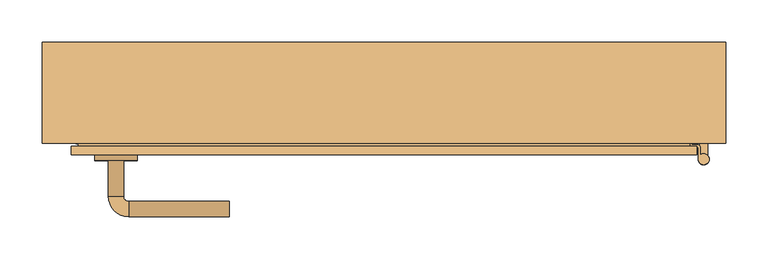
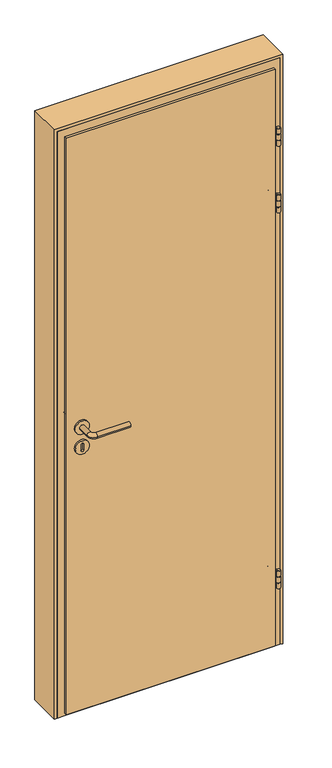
"""IFC4 building model written with IfcOpenShell, lengths in millimetres: door geometry, JW_Interior_Door_Steady_411_Single_1.0 : 790 x 1890 mm - M8 x M19 2 gray 2."""

from ifc_helpers import new_model, si_unit, point, frame, frame_2d, origin, place, context, project, spatial, polyline, circle_curve, ellipse_curve, trimmed, segment, composite_curve, outline, extrude, faceted_brep, source, transform, mapped, element, save
from ifc_brep_helpers import plane_surface, cylinder_surface, revolved_surface, advanced_brep


def door_630a3fa6(model_context):
    return source(origin(), model_context, "Body", "SolidModel", [
        advanced_brep(
        [(374.9018538, -73.3783893, 1955.5), (374.9018538, -64.9005704, 1955.5), (371.7009982, -61.6997148, 1955.5), (365.6997148, -61.6997148, 1955.5), (364.9, -60.9, 1955.5), (364.408042, -51.5128824, 1955.5), (364.1463622, -46.5197347, 1955.5), (361.6497884, -46.6505746, 1955.5), (361.9114682, -51.6437223, 1955.5), (362.4001557, -60.9684354, 1955.5), (365.6129452, -64.1812249, 1955.5), (371.5949734, -64.1812249, 1955.5), (372.404139, -64.9903905, 1955.5), (372.404139, -78.4990677, 1955.5), (374.9018538, -73.3783893, 1890.5), (372.404139, -78.4990677, 1890.5), (372.404139, -64.9903905, 1890.5), (371.5949734, -64.1812249, 1890.5), (365.6129452, -64.1812249, 1890.5), (362.4001557, -60.9684354, 1890.5), (361.9114682, -51.6437223, 1890.5), (361.6497884, -46.6505746, 1890.5), (364.1463622, -46.5197347, 1890.5), (364.408042, -51.5128824, 1890.5), (364.9, -60.9, 1890.5), (365.6997148, -61.6997148, 1890.5), (371.7009982, -61.6997148, 1890.5), (374.9018538, -64.9005704, 1890.5), (372.404139, -78.4990677, 1936.0), (374.9018538, -73.3783893, 1936.0), (374.9018538, -73.3783893, 1910.0), (372.404139, -78.4990677, 1910.0), (374.9018538, -64.9005704, 1936.0), (374.9018538, -64.9005704, 1910.0), (371.7009982, -61.6997148, 1936.0), (371.7009982, -61.6997148, 1910.0), (368.9, -61.6997148, 1936.0), (368.9, -61.6997148, 1910.0), (363.6230027, -36.5334394, 1900.5), (363.6230027, -36.5334394, 1945.5), (361.1264288, -36.6642792, 1900.5), (361.1264288, -36.6642792, 1945.5), (371.5949734, -64.1812249, 1910.0), (368.9, -64.1812249, 1910.0), (368.9, -64.1812249, 1936.0), (371.5949734, -64.1812249, 1936.0), (372.404139, -64.9903905, 1936.0), (372.404139, -64.9903905, 1910.0)],
        [
            (0, 1),
            (1, 2, circle_curve(frame((371.7009982, -64.9005704, 1955.5), z_axis=(0.0, 0.0, 1.0), x_axis=(0.0, 1.0, 0.0)), 3.2008556)),
            (2, 3),
            (3, 4, circle_curve(frame((365.6997148, -60.9, 1955.5), z_axis=(0.0, 0.0, -1.0), x_axis=(0.0, 1.0, 0.0)), 0.7997148)),
            (4, 5),
            (5, 6),
            (6, 7),
            (7, 8),
            (8, 9),
            (9, 10, circle_curve(frame((365.6129452, -60.9684354, 1955.5), z_axis=(0.0, 0.0, 1.0), x_axis=(0.0, 1.0, 0.0)), 3.2127895)),
            (10, 11),
            (11, 12, circle_curve(frame((371.5949734, -64.9903905, 1955.5), z_axis=(0.0, 0.0, -1.0), x_axis=(0.0, 1.0, 0.0)), 0.8091657)),
            (12, 13),
            (13, 0, circle_curve(frame((378.902064, -78.4990677, 1955.5), z_axis=(0.0, 0.0, 1.0), x_axis=(0.0, 1.0, 0.0)), 6.4979249)),
            (14, 15, circle_curve(frame((378.902064, -78.4990677, 1890.5), z_axis=(0.0, 0.0, -1.0), x_axis=(0.0, 1.0, 0.0)), 6.4979249)),
            (15, 16),
            (16, 17, circle_curve(frame((371.5949734, -64.9903905, 1890.5), z_axis=(0.0, 0.0, 1.0), x_axis=(0.0, 1.0, 0.0)), 0.8091657)),
            (17, 18),
            (18, 19, circle_curve(frame((365.6129452, -60.9684354, 1890.5), z_axis=(0.0, 0.0, -1.0), x_axis=(0.0, 1.0, 0.0)), 3.2127895)),
            (19, 20),
            (20, 21),
            (21, 22),
            (22, 23),
            (23, 24),
            (24, 25, circle_curve(frame((365.6997148, -60.9, 1890.5), z_axis=(0.0, 0.0, 1.0), x_axis=(0.0, 1.0, 0.0)), 0.7997148)),
            (25, 26),
            (26, 27, circle_curve(frame((371.7009982, -64.9005704, 1890.5), z_axis=(0.0, 0.0, -1.0), x_axis=(0.0, 1.0, 0.0)), 3.2008556)),
            (27, 14),
            (13, 28),
            (28, 29, circle_curve(frame((378.902064, -78.4990677, 1936.0), z_axis=(0.0, 0.0, 1.0), x_axis=(0.0, 1.0, 0.0)), 6.4979249)),
            (29, 0),
            (14, 30),
            (30, 31, circle_curve(frame((378.902064, -78.4990677, 1910.0), z_axis=(0.0, 0.0, -1.0), x_axis=(0.0, 1.0, 0.0)), 6.4979249)),
            (31, 15),
            (29, 32),
            (32, 1),
            (27, 33),
            (33, 30),
            (32, 34, circle_curve(frame((371.7009982, -64.9005704, 1936.0), z_axis=(0.0, 0.0, 1.0), x_axis=(0.0, 1.0, 0.0)), 3.2008556)),
            (34, 2),
            (26, 35),
            (35, 33, circle_curve(frame((371.7009982, -64.9005704, 1910.0), z_axis=(0.0, 0.0, -1.0), x_axis=(0.0, 1.0, 0.0)), 3.2008556)),
            (34, 36),
            (36, 37),
            (37, 35),
            (25, 3),
            (24, 4),
            (22, 38, circle_curve(frame((364.1463622, -46.5197347, 1900.5), z_axis=(0.9986295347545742, 0.05233595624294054, 0.0), x_axis=(0.05233595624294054, -0.9986295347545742, 0.0)), 10.0)),
            (38, 39),
            (39, 6, circle_curve(frame((364.1463622, -46.5197347, 1945.5), z_axis=(0.9986295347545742, 0.05233595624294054, 0.0), x_axis=(0.05233595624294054, -0.9986295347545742, 0.0)), 10.0)),
            (38, 40),
            (40, 41),
            (41, 39),
            (19, 9),
            (7, 41, circle_curve(frame((361.6497884, -46.6505746, 1945.5), z_axis=(-0.9986295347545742, -0.05233595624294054, 0.0), x_axis=(0.05233595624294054, -0.9986295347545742, 0.0)), 10.0)),
            (40, 21, circle_curve(frame((361.6497884, -46.6505746, 1900.5), z_axis=(-0.9986295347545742, -0.05233595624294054, 0.0), x_axis=(0.05233595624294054, -0.9986295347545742, 0.0)), 10.0)),
            (18, 10),
            (17, 42),
            (42, 43),
            (43, 44),
            (44, 45),
            (45, 11),
            (45, 46, circle_curve(frame((371.5949734, -64.9903905, 1936.0), z_axis=(0.0, 0.0, -1.0), x_axis=(0.0, 1.0, 0.0)), 0.8091657)),
            (46, 12),
            (16, 47),
            (47, 42, circle_curve(frame((371.5949734, -64.9903905, 1910.0), z_axis=(0.0, 0.0, 1.0), x_axis=(0.0, 1.0, 0.0)), 0.8091657)),
            (46, 28),
            (31, 47),
            (44, 36),
            (37, 43),
        ],
        [
            plane_surface(frame((374.9018538, -64.9005704, 1955.5), z_axis=(0.0, 0.0, 1.0), x_axis=(0.0, 1.0, 0.0))),
            plane_surface(frame((374.9018538, -64.9005704, 1890.5), z_axis=(0.0, 0.0, -1.0), x_axis=(0.0, -1.0, 0.0))),
            cylinder_surface(frame((378.902064, -78.4990677, 1890.5), z_axis=(0.0, 0.0, 1.0), x_axis=(0.0, 1.0, 0.0)), 6.4979249),
            plane_surface(frame((374.9018538, -73.3783893, 1955.5), z_axis=(1.0, 0.0, 0.0), x_axis=(0.0, 0.0, -1.0))),
            cylinder_surface(frame((371.7009982, -64.9005704, 1890.5), z_axis=(0.0, 0.0, 1.0), x_axis=(0.0, 1.0, 0.0)), 3.2008556),
            plane_surface(frame((371.7009982, -61.6997148, 1955.5), z_axis=(0.0, 1.0, 0.0), x_axis=(0.0, 0.0, -1.0))),
            revolved_surface(polyline([(365.6997148, -60.1002852, 1890.5), (365.6997148, -60.1002852, 1955.5)]), (365.6997148, -60.9, 1890.5), (0.0, 0.0, -1.0)),
            plane_surface(frame((364.9, -60.9, 1955.5), z_axis=(0.9986295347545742, 0.05233595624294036, 0.0), x_axis=(0.0, 0.0, -1.0))),
            plane_surface(frame((363.6230027, -36.5334394, 1955.5), z_axis=(-0.05233595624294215, 0.998629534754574, 0.0), x_axis=(0.0, 0.0, -1.0))),
            plane_surface(frame((361.1264288, -36.6642792, 1955.5), z_axis=(-0.9986295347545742, -0.05233595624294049, 0.0), x_axis=(0.0, 0.0, -1.0))),
            cylinder_surface(frame((365.6129452, -60.9684354, 1890.5), z_axis=(0.0, 0.0, 1.0), x_axis=(0.0, 1.0, 0.0)), 3.2127895),
            plane_surface(frame((365.6129452, -64.1812249, 1955.5), z_axis=(0.0, -1.0, 0.0), x_axis=(0.0, 0.0, -1.0))),
            revolved_surface(polyline([(371.5949734, -64.18122480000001, 1936.0), (371.5949734, -64.18122480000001, 1955.5)]), (371.5949734, -64.9903905, 1890.5), (0.0, 0.0, -1.0)),
            revolved_surface(polyline([(371.5949734, -64.18122480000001, 1890.5), (371.5949734, -64.18122480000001, 1910.0)]), (371.5949734, -64.9903905, 1890.5), (0.0, 0.0, -1.0)),
            plane_surface(frame((372.404139, -64.9903905, 1955.5), z_axis=(-1.0, 0.0, 0.0), x_axis=(0.0, 0.0, -1.0))),
            plane_surface(frame((386.4849846, -88.5564762, 1936.0), z_axis=(0.0, 0.0, -1.0), x_axis=(1.0, 0.0, 0.0))),
            plane_surface(frame((386.4849846, -88.5564762, 1910.0), z_axis=(0.0, 0.0, 1.0), x_axis=(-1.0, 0.0, 0.0))),
            plane_surface(frame((368.9, -58.5564762, 1936.0), z_axis=(1.0, 0.0, 0.0), x_axis=(0.0, 0.0, -1.0))),
            cylinder_surface(frame((369.1395099, -46.2580549, 1900.5), z_axis=(0.9986295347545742, 0.05233595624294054, 0.0), x_axis=(0.05233595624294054, -0.9986295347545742, 0.0)), 10.0),
            cylinder_surface(frame((369.1395099, -46.2580549, 1945.5), z_axis=(0.9986295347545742, 0.05233595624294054, 0.0), x_axis=(0.05233595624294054, -0.9986295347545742, 0.0)), 10.0),
        ],
        [
            (0, [[1, 2, 3, 4, 5, 6, 7, 8, 9, 10, 11, 12, 13, 14]]),
            (1, [[15, 16, 17, 18, 19, 20, 21, 22, 23, 24, 25, 26, 27, 28]]),
            (2, [[-14, 29, 30, 31]]),
            (2, [[-15, 32, 33, 34]]),
            (3, [[-1, -31, 35, 36]]),
            (3, [[-28, 37, 38, -32]]),
            (4, [[-2, -36, 39, 40]]),
            (4, [[-27, 41, 42, -37]]),
            (5, [[-3, -40, 43, 44, 45, -41, -26, 46]]),
            (6, [[-4, -46, -25, 47]]),
            (7, [[-47, -24, -23, 48, 49, 50, -6, -5]]),
            (8, [[-49, 51, 52, 53]]),
            (9, [[54, -9, -8, 55, -52, 56, -21, -20]]),
            (10, [[-10, -54, -19, 57]]),
            (11, [[-11, -57, -18, 58, 59, 60, 61, 62]]),
            (12, [[-12, -62, 63, 64]]),
            (13, [[-17, 65, 66, -58]]),
            (14, [[-13, -64, 67, -29]]),
            (14, [[-16, -34, 68, -65]]),
            (15, [[69, -43, -39, -35, -30, -67, -63, -61]]),
            (16, [[70, -59, -66, -68, -33, -38, -42, -45]]),
            (17, [[-69, -60, -70, -44]]),
            (18, [[-22, -56, -51, -48]]),
            (19, [[-7, -50, -53, -55]]),
        ],
    ),
        extrude(outline(composite_curve([segment(trimmed(circle_curve(frame_2d((378.9, -78.5)), 3.75), [point((375.15, -78.5))], [point((382.65, -78.5))], False, "CARTESIAN"), True, "CONTINUOUS"), segment(trimmed(circle_curve(frame_2d((378.9, -78.5)), 3.75), [point((382.65, -78.5))], [point((375.15, -78.5))], False, "CARTESIAN"), True, "CONTINUOUS")], self_intersect=False)), frame((0.0, 0.0, 1890.5), z_axis=(0.0, 0.0, 1.0), x_axis=(1.0, 0.0, 0.0)), (0.0, 0.0, 1.0), 65.0),
        extrude(outline(composite_curve([segment(trimmed(circle_curve(frame_2d((378.9, -78.5)), 6.5), [point((383.9, -74.3466881))], [point((373.9, -74.3466881))], False, "CARTESIAN"), True, "CONTINUOUS"), segment(polyline([(373.9, -74.3466881), (373.9, -60.0), (383.9, -60.0), (383.9, -74.3466881)]), True, "CONTINUOUS")], self_intersect=False)), frame((0.0, 0.0, 1913.0), z_axis=(0.0, 0.0, 1.0), x_axis=(1.0, 0.0, 0.0)), (0.0, 0.0, 1.0), 20.0),
        advanced_brep(
        [(374.9018538, -73.3783893, 1705.5), (374.9018538, -64.9005704, 1705.5), (371.7009982, -61.6997148, 1705.5), (365.6997148, -61.6997148, 1705.5), (364.9, -60.9, 1705.5), (364.408042, -51.5128824, 1705.5), (364.1463622, -46.5197347, 1705.5), (361.6497884, -46.6505746, 1705.5), (361.9114682, -51.6437223, 1705.5), (362.4001557, -60.9684354, 1705.5), (365.6129452, -64.1812249, 1705.5), (371.5949734, -64.1812249, 1705.5), (372.404139, -64.9903905, 1705.5), (372.404139, -78.4990677, 1705.5), (374.9018538, -73.3783893, 1640.5), (372.404139, -78.4990677, 1640.5), (372.404139, -64.9903905, 1640.5), (371.5949734, -64.1812249, 1640.5), (365.6129452, -64.1812249, 1640.5), (362.4001557, -60.9684354, 1640.5), (361.9114682, -51.6437223, 1640.5), (361.6497884, -46.6505746, 1640.5), (364.1463622, -46.5197347, 1640.5), (364.408042, -51.5128824, 1640.5), (364.9, -60.9, 1640.5), (365.6997148, -61.6997148, 1640.5), (371.7009982, -61.6997148, 1640.5), (374.9018538, -64.9005704, 1640.5), (372.404139, -78.4990677, 1686.0), (374.9018538, -73.3783893, 1686.0), (374.9018538, -73.3783893, 1660.0), (372.404139, -78.4990677, 1660.0), (374.9018538, -64.9005704, 1686.0), (374.9018538, -64.9005704, 1660.0), (371.7009982, -61.6997148, 1686.0), (371.7009982, -61.6997148, 1660.0), (368.9, -61.6997148, 1686.0), (368.9, -61.6997148, 1660.0), (363.6230027, -36.5334394, 1650.5), (363.6230027, -36.5334394, 1695.5), (361.1264288, -36.6642792, 1650.5), (361.1264288, -36.6642792, 1695.5), (371.5949734, -64.1812249, 1660.0), (368.9, -64.1812249, 1660.0), (368.9, -64.1812249, 1686.0), (371.5949734, -64.1812249, 1686.0), (372.404139, -64.9903905, 1686.0), (372.404139, -64.9903905, 1660.0)],
        [
            (0, 1),
            (1, 2, circle_curve(frame((371.7009982, -64.9005704, 1705.5), z_axis=(0.0, 0.0, 1.0), x_axis=(0.0, 1.0, 0.0)), 3.2008556)),
            (2, 3),
            (3, 4, circle_curve(frame((365.6997148, -60.9, 1705.5), z_axis=(0.0, 0.0, -1.0), x_axis=(0.0, 1.0, 0.0)), 0.7997148)),
            (4, 5),
            (5, 6),
            (6, 7),
            (7, 8),
            (8, 9),
            (9, 10, circle_curve(frame((365.6129452, -60.9684354, 1705.5), z_axis=(0.0, 0.0, 1.0), x_axis=(0.0, 1.0, 0.0)), 3.2127895)),
            (10, 11),
            (11, 12, circle_curve(frame((371.5949734, -64.9903905, 1705.5), z_axis=(0.0, 0.0, -1.0), x_axis=(0.0, 1.0, 0.0)), 0.8091657)),
            (12, 13),
            (13, 0, circle_curve(frame((378.902064, -78.4990677, 1705.5), z_axis=(0.0, 0.0, 1.0), x_axis=(0.0, 1.0, 0.0)), 6.4979249)),
            (14, 15, circle_curve(frame((378.902064, -78.4990677, 1640.5), z_axis=(0.0, 0.0, -1.0), x_axis=(0.0, 1.0, 0.0)), 6.4979249)),
            (15, 16),
            (16, 17, circle_curve(frame((371.5949734, -64.9903905, 1640.5), z_axis=(0.0, 0.0, 1.0), x_axis=(0.0, 1.0, 0.0)), 0.8091657)),
            (17, 18),
            (18, 19, circle_curve(frame((365.6129452, -60.9684354, 1640.5), z_axis=(0.0, 0.0, -1.0), x_axis=(0.0, 1.0, 0.0)), 3.2127895)),
            (19, 20),
            (20, 21),
            (21, 22),
            (22, 23),
            (23, 24),
            (24, 25, circle_curve(frame((365.6997148, -60.9, 1640.5), z_axis=(0.0, 0.0, 1.0), x_axis=(0.0, 1.0, 0.0)), 0.7997148)),
            (25, 26),
            (26, 27, circle_curve(frame((371.7009982, -64.9005704, 1640.5), z_axis=(0.0, 0.0, -1.0), x_axis=(0.0, 1.0, 0.0)), 3.2008556)),
            (27, 14),
            (13, 28),
            (28, 29, circle_curve(frame((378.902064, -78.4990677, 1686.0), z_axis=(0.0, 0.0, 1.0), x_axis=(0.0, 1.0, 0.0)), 6.4979249)),
            (29, 0),
            (14, 30),
            (30, 31, circle_curve(frame((378.902064, -78.4990677, 1660.0), z_axis=(0.0, 0.0, -1.0), x_axis=(0.0, 1.0, 0.0)), 6.4979249)),
            (31, 15),
            (29, 32),
            (32, 1),
            (27, 33),
            (33, 30),
            (32, 34, circle_curve(frame((371.7009982, -64.9005704, 1686.0), z_axis=(0.0, 0.0, 1.0), x_axis=(0.0, 1.0, 0.0)), 3.2008556)),
            (34, 2),
            (26, 35),
            (35, 33, circle_curve(frame((371.7009982, -64.9005704, 1660.0), z_axis=(0.0, 0.0, -1.0), x_axis=(0.0, 1.0, 0.0)), 3.2008556)),
            (34, 36),
            (36, 37),
            (37, 35),
            (25, 3),
            (24, 4),
            (22, 38, circle_curve(frame((364.1463622, -46.5197347, 1650.5), z_axis=(0.9986295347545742, 0.05233595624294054, 0.0), x_axis=(0.05233595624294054, -0.9986295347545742, 0.0)), 10.0)),
            (38, 39),
            (39, 6, circle_curve(frame((364.1463622, -46.5197347, 1695.5), z_axis=(0.9986295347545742, 0.05233595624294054, 0.0), x_axis=(0.05233595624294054, -0.9986295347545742, 0.0)), 10.0)),
            (38, 40),
            (40, 41),
            (41, 39),
            (19, 9),
            (7, 41, circle_curve(frame((361.6497884, -46.6505746, 1695.5), z_axis=(-0.9986295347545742, -0.05233595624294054, 0.0), x_axis=(0.05233595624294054, -0.9986295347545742, 0.0)), 10.0)),
            (40, 21, circle_curve(frame((361.6497884, -46.6505746, 1650.5), z_axis=(-0.9986295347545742, -0.05233595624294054, 0.0), x_axis=(0.05233595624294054, -0.9986295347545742, 0.0)), 10.0)),
            (18, 10),
            (17, 42),
            (42, 43),
            (43, 44),
            (44, 45),
            (45, 11),
            (45, 46, circle_curve(frame((371.5949734, -64.9903905, 1686.0), z_axis=(0.0, 0.0, -1.0), x_axis=(0.0, 1.0, 0.0)), 0.8091657)),
            (46, 12),
            (16, 47),
            (47, 42, circle_curve(frame((371.5949734, -64.9903905, 1660.0), z_axis=(0.0, 0.0, 1.0), x_axis=(0.0, 1.0, 0.0)), 0.8091657)),
            (46, 28),
            (31, 47),
            (44, 36),
            (37, 43),
        ],
        [
            plane_surface(frame((374.9018538, -64.9005704, 1705.5), z_axis=(0.0, 0.0, 1.0), x_axis=(0.0, 1.0, 0.0))),
            plane_surface(frame((374.9018538, -64.9005704, 1640.5), z_axis=(0.0, 0.0, -1.0), x_axis=(0.0, -1.0, 0.0))),
            cylinder_surface(frame((378.902064, -78.4990677, 1640.5), z_axis=(0.0, 0.0, 1.0), x_axis=(0.0, 1.0, 0.0)), 6.4979249),
            plane_surface(frame((374.9018538, -73.3783893, 1705.5), z_axis=(1.0, 0.0, 0.0), x_axis=(0.0, 0.0, -1.0))),
            cylinder_surface(frame((371.7009982, -64.9005704, 1640.5), z_axis=(0.0, 0.0, 1.0), x_axis=(0.0, 1.0, 0.0)), 3.2008556),
            plane_surface(frame((371.7009982, -61.6997148, 1705.5), z_axis=(0.0, 1.0, 0.0), x_axis=(0.0, 0.0, -1.0))),
            revolved_surface(polyline([(365.6997148, -60.1002852, 1640.5), (365.6997148, -60.1002852, 1705.5)]), (365.6997148, -60.9, 1640.5), (0.0, 0.0, -1.0)),
            plane_surface(frame((364.9, -60.9, 1705.5), z_axis=(0.9986295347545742, 0.05233595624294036, 0.0), x_axis=(0.0, 0.0, -1.0))),
            plane_surface(frame((363.6230027, -36.5334394, 1705.5), z_axis=(-0.05233595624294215, 0.998629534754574, 0.0), x_axis=(0.0, 0.0, -1.0))),
            plane_surface(frame((361.1264288, -36.6642792, 1705.5), z_axis=(-0.9986295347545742, -0.05233595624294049, 0.0), x_axis=(0.0, 0.0, -1.0))),
            cylinder_surface(frame((365.6129452, -60.9684354, 1640.5), z_axis=(0.0, 0.0, 1.0), x_axis=(0.0, 1.0, 0.0)), 3.2127895),
            plane_surface(frame((365.6129452, -64.1812249, 1705.5), z_axis=(0.0, -1.0, 0.0), x_axis=(0.0, 0.0, -1.0))),
            revolved_surface(polyline([(371.5949734, -64.18122480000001, 1686.0), (371.5949734, -64.18122480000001, 1705.5)]), (371.5949734, -64.9903905, 1640.5), (0.0, 0.0, -1.0)),
            revolved_surface(polyline([(371.5949734, -64.18122480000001, 1640.5), (371.5949734, -64.18122480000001, 1660.0)]), (371.5949734, -64.9903905, 1640.5), (0.0, 0.0, -1.0)),
            plane_surface(frame((372.404139, -64.9903905, 1705.5), z_axis=(-1.0, 0.0, 0.0), x_axis=(0.0, 0.0, -1.0))),
            plane_surface(frame((386.4849846, -88.5564762, 1686.0), z_axis=(0.0, 0.0, -1.0), x_axis=(1.0, 0.0, 0.0))),
            plane_surface(frame((386.4849846, -88.5564762, 1660.0), z_axis=(0.0, 0.0, 1.0), x_axis=(-1.0, 0.0, 0.0))),
            plane_surface(frame((368.9, -58.5564762, 1686.0), z_axis=(1.0, 0.0, 0.0), x_axis=(0.0, 0.0, -1.0))),
            cylinder_surface(frame((369.1395099, -46.2580549, 1650.5), z_axis=(0.9986295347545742, 0.05233595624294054, 0.0), x_axis=(0.05233595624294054, -0.9986295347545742, 0.0)), 10.0),
            cylinder_surface(frame((369.1395099, -46.2580549, 1695.5), z_axis=(0.9986295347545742, 0.05233595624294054, 0.0), x_axis=(0.05233595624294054, -0.9986295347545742, 0.0)), 10.0),
        ],
        [
            (0, [[1, 2, 3, 4, 5, 6, 7, 8, 9, 10, 11, 12, 13, 14]]),
            (1, [[15, 16, 17, 18, 19, 20, 21, 22, 23, 24, 25, 26, 27, 28]]),
            (2, [[-14, 29, 30, 31]]),
            (2, [[-15, 32, 33, 34]]),
            (3, [[-1, -31, 35, 36]]),
            (3, [[-28, 37, 38, -32]]),
            (4, [[-2, -36, 39, 40]]),
            (4, [[-27, 41, 42, -37]]),
            (5, [[-3, -40, 43, 44, 45, -41, -26, 46]]),
            (6, [[-4, -46, -25, 47]]),
            (7, [[-47, -24, -23, 48, 49, 50, -6, -5]]),
            (8, [[-49, 51, 52, 53]]),
            (9, [[54, -9, -8, 55, -52, 56, -21, -20]]),
            (10, [[-10, -54, -19, 57]]),
            (11, [[-11, -57, -18, 58, 59, 60, 61, 62]]),
            (12, [[-12, -62, 63, 64]]),
            (13, [[-17, 65, 66, -58]]),
            (14, [[-13, -64, 67, -29]]),
            (14, [[-16, -34, 68, -65]]),
            (15, [[69, -43, -39, -35, -30, -67, -63, -61]]),
            (16, [[70, -59, -66, -68, -33, -38, -42, -45]]),
            (17, [[-69, -60, -70, -44]]),
            (18, [[-22, -56, -51, -48]]),
            (19, [[-7, -50, -53, -55]]),
        ],
    ),
        extrude(outline(composite_curve([segment(trimmed(circle_curve(frame_2d((378.9, -78.5)), 3.75), [point((375.15, -78.5))], [point((382.65, -78.5))], False, "CARTESIAN"), True, "CONTINUOUS"), segment(trimmed(circle_curve(frame_2d((378.9, -78.5)), 3.75), [point((382.65, -78.5))], [point((375.15, -78.5))], False, "CARTESIAN"), True, "CONTINUOUS")], self_intersect=False)), frame((0.0, 0.0, 1640.5), z_axis=(0.0, 0.0, 1.0), x_axis=(1.0, 0.0, 0.0)), (0.0, 0.0, 1.0), 65.0),
        extrude(outline(composite_curve([segment(trimmed(circle_curve(frame_2d((378.9, -78.5)), 6.5), [point((383.9, -74.3466881))], [point((373.9, -74.3466881))], False, "CARTESIAN"), True, "CONTINUOUS"), segment(polyline([(373.9, -74.3466881), (373.9, -60.0), (383.9, -60.0), (383.9, -74.3466881)]), True, "CONTINUOUS")], self_intersect=False)), frame((0.0, 0.0, 1663.0), z_axis=(0.0, 0.0, 1.0), x_axis=(1.0, 0.0, 0.0)), (0.0, 0.0, 1.0), 20.0),
        advanced_brep(
        [(374.9018538, -73.3783893, 295.5), (374.9018538, -64.9005704, 295.5), (371.7009982, -61.6997148, 295.5), (365.6997148, -61.6997148, 295.5), (364.9, -60.9, 295.5), (364.408042, -51.5128824, 295.5), (364.1463622, -46.5197347, 295.5), (361.6497884, -46.6505746, 295.5), (361.9114682, -51.6437223, 295.5), (362.4001557, -60.9684354, 295.5), (365.6129452, -64.1812249, 295.5), (371.5949734, -64.1812249, 295.5), (372.404139, -64.9903905, 295.5), (372.404139, -78.4990677, 295.5), (374.9018538, -73.3783893, 230.5), (372.404139, -78.4990677, 230.5), (372.404139, -64.9903905, 230.5), (371.5949734, -64.1812249, 230.5), (365.6129452, -64.1812249, 230.5), (362.4001557, -60.9684354, 230.5), (361.9114682, -51.6437223, 230.5), (361.6497884, -46.6505746, 230.5), (364.1463622, -46.5197347, 230.5), (364.408042, -51.5128824, 230.5), (364.9, -60.9, 230.5), (365.6997148, -61.6997148, 230.5), (371.7009982, -61.6997148, 230.5), (374.9018538, -64.9005704, 230.5), (372.404139, -78.4990677, 276.0), (374.9018538, -73.3783893, 276.0), (374.9018538, -73.3783893, 250.0), (372.404139, -78.4990677, 250.0), (374.9018538, -64.9005704, 276.0), (374.9018538, -64.9005704, 250.0), (371.7009982, -61.6997148, 276.0), (371.7009982, -61.6997148, 250.0), (368.9, -61.6997148, 276.0), (368.9, -61.6997148, 250.0), (363.6230027, -36.5334394, 240.5), (363.6230027, -36.5334394, 285.5), (361.1264288, -36.6642792, 240.5), (361.1264288, -36.6642792, 285.5), (371.5949734, -64.1812249, 250.0), (368.9, -64.1812249, 250.0), (368.9, -64.1812249, 276.0), (371.5949734, -64.1812249, 276.0), (372.404139, -64.9903905, 276.0), (372.404139, -64.9903905, 250.0)],
        [
            (0, 1),
            (1, 2, circle_curve(frame((371.7009982, -64.9005704, 295.5), z_axis=(0.0, 0.0, 1.0), x_axis=(0.0, 1.0, 0.0)), 3.2008556)),
            (2, 3),
            (3, 4, circle_curve(frame((365.6997148, -60.9, 295.5), z_axis=(0.0, 0.0, -1.0), x_axis=(0.0, 1.0, 0.0)), 0.7997148)),
            (4, 5),
            (5, 6),
            (6, 7),
            (7, 8),
            (8, 9),
            (9, 10, circle_curve(frame((365.6129452, -60.9684354, 295.5), z_axis=(0.0, 0.0, 1.0), x_axis=(0.0, 1.0, 0.0)), 3.2127895)),
            (10, 11),
            (11, 12, circle_curve(frame((371.5949734, -64.9903905, 295.5), z_axis=(0.0, 0.0, -1.0), x_axis=(0.0, 1.0, 0.0)), 0.8091657)),
            (12, 13),
            (13, 0, circle_curve(frame((378.902064, -78.4990677, 295.5), z_axis=(0.0, 0.0, 1.0), x_axis=(0.0, 1.0, 0.0)), 6.4979249)),
            (14, 15, circle_curve(frame((378.902064, -78.4990677, 230.5), z_axis=(0.0, 0.0, -1.0), x_axis=(0.0, 1.0, 0.0)), 6.4979249)),
            (15, 16),
            (16, 17, circle_curve(frame((371.5949734, -64.9903905, 230.5), z_axis=(0.0, 0.0, 1.0), x_axis=(0.0, 1.0, 0.0)), 0.8091657)),
            (17, 18),
            (18, 19, circle_curve(frame((365.6129452, -60.9684354, 230.5), z_axis=(0.0, 0.0, -1.0), x_axis=(0.0, 1.0, 0.0)), 3.2127895)),
            (19, 20),
            (20, 21),
            (21, 22),
            (22, 23),
            (23, 24),
            (24, 25, circle_curve(frame((365.6997148, -60.9, 230.5), z_axis=(0.0, 0.0, 1.0), x_axis=(0.0, 1.0, 0.0)), 0.7997148)),
            (25, 26),
            (26, 27, circle_curve(frame((371.7009982, -64.9005704, 230.5), z_axis=(0.0, 0.0, -1.0), x_axis=(0.0, 1.0, 0.0)), 3.2008556)),
            (27, 14),
            (13, 28),
            (28, 29, circle_curve(frame((378.902064, -78.4990677, 276.0), z_axis=(0.0, 0.0, 1.0), x_axis=(0.0, 1.0, 0.0)), 6.4979249)),
            (29, 0),
            (14, 30),
            (30, 31, circle_curve(frame((378.902064, -78.4990677, 250.0), z_axis=(0.0, 0.0, -1.0), x_axis=(0.0, 1.0, 0.0)), 6.4979249)),
            (31, 15),
            (29, 32),
            (32, 1),
            (27, 33),
            (33, 30),
            (32, 34, circle_curve(frame((371.7009982, -64.9005704, 276.0), z_axis=(0.0, 0.0, 1.0), x_axis=(0.0, 1.0, 0.0)), 3.2008556)),
            (34, 2),
            (26, 35),
            (35, 33, circle_curve(frame((371.7009982, -64.9005704, 250.0), z_axis=(0.0, 0.0, -1.0), x_axis=(0.0, 1.0, 0.0)), 3.2008556)),
            (34, 36),
            (36, 37),
            (37, 35),
            (25, 3),
            (24, 4),
            (22, 38, circle_curve(frame((364.1463622, -46.5197347, 240.5), z_axis=(0.9986295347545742, 0.05233595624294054, 0.0), x_axis=(0.05233595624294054, -0.9986295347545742, 0.0)), 10.0)),
            (38, 39),
            (39, 6, circle_curve(frame((364.1463622, -46.5197347, 285.5), z_axis=(0.9986295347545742, 0.05233595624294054, 0.0), x_axis=(0.05233595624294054, -0.9986295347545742, 0.0)), 10.0)),
            (38, 40),
            (40, 41),
            (41, 39),
            (19, 9),
            (7, 41, circle_curve(frame((361.6497884, -46.6505746, 285.5), z_axis=(-0.9986295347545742, -0.05233595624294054, 0.0), x_axis=(0.05233595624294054, -0.9986295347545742, 0.0)), 10.0)),
            (40, 21, circle_curve(frame((361.6497884, -46.6505746, 240.5), z_axis=(-0.9986295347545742, -0.05233595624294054, 0.0), x_axis=(0.05233595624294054, -0.9986295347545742, 0.0)), 10.0)),
            (18, 10),
            (17, 42),
            (42, 43),
            (43, 44),
            (44, 45),
            (45, 11),
            (45, 46, circle_curve(frame((371.5949734, -64.9903905, 276.0), z_axis=(0.0, 0.0, -1.0), x_axis=(0.0, 1.0, 0.0)), 0.8091657)),
            (46, 12),
            (16, 47),
            (47, 42, circle_curve(frame((371.5949734, -64.9903905, 250.0), z_axis=(0.0, 0.0, 1.0), x_axis=(0.0, 1.0, 0.0)), 0.8091657)),
            (46, 28),
            (31, 47),
            (44, 36),
            (37, 43),
        ],
        [
            plane_surface(frame((374.9018538, -64.9005704, 295.5), z_axis=(0.0, 0.0, 1.0), x_axis=(0.0, 1.0, 0.0))),
            plane_surface(frame((374.9018538, -64.9005704, 230.5), z_axis=(0.0, 0.0, -1.0), x_axis=(0.0, -1.0, 0.0))),
            cylinder_surface(frame((378.902064, -78.4990677, 230.5), z_axis=(0.0, 0.0, 1.0), x_axis=(0.0, 1.0, 0.0)), 6.4979249),
            plane_surface(frame((374.9018538, -73.3783893, 295.5), z_axis=(1.0, 0.0, 0.0), x_axis=(0.0, 0.0, -1.0))),
            cylinder_surface(frame((371.7009982, -64.9005704, 230.5), z_axis=(0.0, 0.0, 1.0), x_axis=(0.0, 1.0, 0.0)), 3.2008556),
            plane_surface(frame((371.7009982, -61.6997148, 295.5), z_axis=(0.0, 1.0, 0.0), x_axis=(0.0, 0.0, -1.0))),
            revolved_surface(polyline([(365.6997148, -60.1002852, 230.5), (365.6997148, -60.1002852, 295.5)]), (365.6997148, -60.9, 230.5), (0.0, 0.0, -1.0)),
            plane_surface(frame((364.9, -60.9, 295.5), z_axis=(0.9986295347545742, 0.05233595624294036, 0.0), x_axis=(0.0, 0.0, -1.0))),
            plane_surface(frame((363.6230027, -36.5334394, 295.5), z_axis=(-0.05233595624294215, 0.998629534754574, 0.0), x_axis=(0.0, 0.0, -1.0))),
            plane_surface(frame((361.1264288, -36.6642792, 295.5), z_axis=(-0.9986295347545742, -0.05233595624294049, 0.0), x_axis=(0.0, 0.0, -1.0))),
            cylinder_surface(frame((365.6129452, -60.9684354, 230.5), z_axis=(0.0, 0.0, 1.0), x_axis=(0.0, 1.0, 0.0)), 3.2127895),
            plane_surface(frame((365.6129452, -64.1812249, 295.5), z_axis=(0.0, -1.0, 0.0), x_axis=(0.0, 0.0, -1.0))),
            revolved_surface(polyline([(371.5949734, -64.18122480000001, 276.0), (371.5949734, -64.18122480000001, 295.5)]), (371.5949734, -64.9903905, 230.5), (0.0, 0.0, -1.0)),
            revolved_surface(polyline([(371.5949734, -64.18122480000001, 230.5), (371.5949734, -64.18122480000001, 250.0)]), (371.5949734, -64.9903905, 230.5), (0.0, 0.0, -1.0)),
            plane_surface(frame((372.404139, -64.9903905, 295.5), z_axis=(-1.0, 0.0, 0.0), x_axis=(0.0, 0.0, -1.0))),
            plane_surface(frame((386.4849846, -88.5564762, 276.0), z_axis=(0.0, 0.0, -1.0), x_axis=(1.0, 0.0, 0.0))),
            plane_surface(frame((386.4849846, -88.5564762, 250.0), z_axis=(0.0, 0.0, 1.0), x_axis=(-1.0, 0.0, 0.0))),
            plane_surface(frame((368.9, -58.5564762, 276.0), z_axis=(1.0, 0.0, 0.0), x_axis=(0.0, 0.0, -1.0))),
            cylinder_surface(frame((369.1395099, -46.2580549, 240.5), z_axis=(0.9986295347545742, 0.05233595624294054, 0.0), x_axis=(0.05233595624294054, -0.9986295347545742, 0.0)), 10.0),
            cylinder_surface(frame((369.1395099, -46.2580549, 285.5), z_axis=(0.9986295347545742, 0.05233595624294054, 0.0), x_axis=(0.05233595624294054, -0.9986295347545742, 0.0)), 10.0),
        ],
        [
            (0, [[1, 2, 3, 4, 5, 6, 7, 8, 9, 10, 11, 12, 13, 14]]),
            (1, [[15, 16, 17, 18, 19, 20, 21, 22, 23, 24, 25, 26, 27, 28]]),
            (2, [[-14, 29, 30, 31]]),
            (2, [[-15, 32, 33, 34]]),
            (3, [[-1, -31, 35, 36]]),
            (3, [[-28, 37, 38, -32]]),
            (4, [[-2, -36, 39, 40]]),
            (4, [[-27, 41, 42, -37]]),
            (5, [[-3, -40, 43, 44, 45, -41, -26, 46]]),
            (6, [[-4, -46, -25, 47]]),
            (7, [[-47, -24, -23, 48, 49, 50, -6, -5]]),
            (8, [[-49, 51, 52, 53]]),
            (9, [[54, -9, -8, 55, -52, 56, -21, -20]]),
            (10, [[-10, -54, -19, 57]]),
            (11, [[-11, -57, -18, 58, 59, 60, 61, 62]]),
            (12, [[-12, -62, 63, 64]]),
            (13, [[-17, 65, 66, -58]]),
            (14, [[-13, -64, 67, -29]]),
            (14, [[-16, -34, 68, -65]]),
            (15, [[69, -43, -39, -35, -30, -67, -63, -61]]),
            (16, [[70, -59, -66, -68, -33, -38, -42, -45]]),
            (17, [[-69, -60, -70, -44]]),
            (18, [[-22, -56, -51, -48]]),
            (19, [[-7, -50, -53, -55]]),
        ],
    ),
        extrude(outline(composite_curve([segment(trimmed(circle_curve(frame_2d((378.9, -78.5)), 3.75), [point((375.15, -78.5))], [point((382.65, -78.5))], False, "CARTESIAN"), True, "CONTINUOUS"), segment(trimmed(circle_curve(frame_2d((378.9, -78.5)), 3.75), [point((382.65, -78.5))], [point((375.15, -78.5))], False, "CARTESIAN"), True, "CONTINUOUS")], self_intersect=False)), frame((0.0, 0.0, 230.5), z_axis=(0.0, 0.0, 1.0), x_axis=(1.0, 0.0, 0.0)), (0.0, 0.0, 1.0), 65.0),
        extrude(outline(composite_curve([segment(trimmed(circle_curve(frame_2d((378.9, -78.5)), 6.5), [point((383.9, -74.3466881))], [point((373.9, -74.3466881))], False, "CARTESIAN"), True, "CONTINUOUS"), segment(polyline([(373.9, -74.3466881), (373.9, -60.0), (383.9, -60.0), (383.9, -74.3466881)]), True, "CONTINUOUS")], self_intersect=False)), frame((0.0, 0.0, 253.0), z_axis=(0.0, 0.0, 1.0), x_axis=(1.0, 0.0, 0.0)), (0.0, 0.0, 1.0), 20.0),
        faceted_brep([(-395.0, 32.0, 0.0), (-353.0, 32.0, 0.0), (-353.0, -30.0, 0.0), (-365.0, -30.0, 0.0), (-365.0, -60.0, 0.0), (-395.0, -60.0, 0.0), (-395.0, -60.0, 2200.0), (-395.0, 32.0, 2200.0), (-365.0, -60.0, 2170.0), (365.0, -60.0, 2170.0), (365.0, -60.0, 0.0), (395.0, -60.0, 0.0), (395.0, -60.0, 2200.0), (-365.0, -30.0, 2170.0), (-353.0, -30.0, 2158.0), (353.0, -30.0, 2158.0), (353.0, -30.0, 0.0), (365.0, -30.0, 0.0), (365.0, -30.0, 2170.0), (-353.0, 32.0, 2158.0), (395.0, 32.0, 2200.0), (395.0, 32.0, 0.0), (353.0, 32.0, 0.0), (353.0, 32.0, 2158.0)], [[[0, 1, 2, 3, 4, 5]], [[5, 6, 7, 0]], [[4, 8, 9, 10, 11, 12, 6, 5]], [[3, 13, 8, 4]], [[2, 14, 15, 16, 17, 18, 13, 3]], [[1, 19, 14, 2]], [[0, 7, 20, 21, 22, 23, 19, 1]], [[12, 11, 21, 20]], [[21, 11, 10, 17, 16, 22]], [[18, 17, 10, 9]], [[23, 22, 16, 15]], [[6, 12, 20, 7]], [[13, 18, 9, 8]], [[19, 23, 15, 14]]]),
        faceted_brep([(365.0, -60.0, 0.0), (365.0, -30.0, 0.0), (365.0, -30.0, 15.0), (365.0, -60.0, 15.0), (-365.0, -30.0, 15.0), (-365.0, -30.0, 0.0), (-365.0, -60.0, 0.0), (-365.0, -60.0, 15.0), (-353.0, -30.0, 0.0), (-353.0, 32.0, 0.0), (353.0, 32.0, 0.0), (353.0, -30.0, 0.0), (353.0, -30.0, 15.0), (-353.0, -30.0, 15.0), (353.0, -30.0, 22.0), (-353.0, -30.0, 22.0), (353.0, 32.0, 22.0), (-353.0, 32.0, 22.0)], [[[0, 1, 2, 3]], [[4, 5, 6, 7]], [[6, 5, 8, 9, 10, 11, 1, 0]], [[3, 7, 6, 0]], [[2, 12, 13, 4, 7, 3]], [[12, 14, 15, 13]], [[14, 16, 17, 15]], [[9, 17, 16, 10]], [[8, 5, 4, 13]], [[13, 15, 17, 9, 8]], [[11, 10, 16, 14, 12]], [[12, 2, 1, 11]]]),
        extrude(outline(composite_curve([segment(trimmed(circle_curve(frame_2d((1001.0, -317.5)), 25.0), [point((1001.0, -292.5))], [point((1001.0, -342.5))], False, "CARTESIAN"), True, "CONTINUOUS"), segment(trimmed(circle_curve(frame_2d((1001.0, -317.5)), 25.0), [point((1001.0, -342.5))], [point((1001.0, -292.5))], False, "CARTESIAN"), True, "CONTINUOUS")], self_intersect=False), holes=[composite_curve([segment(polyline([(989.756589, -321.5), (1012.243411, -321.5)]), True, "CONTINUOUS"), segment(trimmed(circle_curve(frame_2d((1012.243411, -317.5)), 4.0), [point((1012.243411, -321.5))], [point((1012.243411, -313.5))], True, "CARTESIAN"), True, "CONTINUOUS"), segment(polyline([(1012.243411, -313.5), (989.756589, -313.5)]), True, "CONTINUOUS"), segment(trimmed(circle_curve(frame_2d((989.756589, -317.5)), 4.0), [point((989.756589, -313.5))], [point((989.756589, -321.5))], True, "CARTESIAN"), True, "CONTINUOUS")], self_intersect=False)]), frame((0.0, -33.5, 0.0), z_axis=(0.0, 1.0, 0.0), x_axis=(0.0, 0.0, 1.0)), (0.0, 0.0, 1.0), 7.0),
        extrude(outline(composite_curve([segment(trimmed(circle_curve(frame_2d((1001.0, -317.5)), 25.0), [point((1001.0, -292.5))], [point((1001.0, -342.5))], False, "CARTESIAN"), True, "CONTINUOUS"), segment(trimmed(circle_curve(frame_2d((1001.0, -317.5)), 25.0), [point((1001.0, -342.5))], [point((1001.0, -292.5))], False, "CARTESIAN"), True, "CONTINUOUS")], self_intersect=False), holes=[composite_curve([segment(trimmed(circle_curve(frame_2d((1012.243411, -317.5)), 4.0), [point((1012.243411, -321.5))], [point((1012.243411, -313.5))], True, "CARTESIAN"), True, "CONTINUOUS"), segment(polyline([(1012.243411, -313.5), (989.756589, -313.5)]), True, "CONTINUOUS"), segment(trimmed(circle_curve(frame_2d((989.756589, -317.5)), 4.0), [point((989.756589, -313.5))], [point((989.756589, -321.5))], True, "CARTESIAN"), True, "CONTINUOUS"), segment(polyline([(989.756589, -321.5), (1012.243411, -321.5)]), True, "CONTINUOUS")], self_intersect=False)]), frame((0.0, -80.5, 0.0), z_axis=(0.0, 1.0, 0.0), x_axis=(0.0, 0.0, 1.0)), (0.0, 0.0, 1.0), 7.0),
        advanced_brep(
        [(-342.5, -27.5, 1075.0), (-292.5, -27.5, 1075.0), (-308.5346073, -27.5, 1075.0), (-326.4653927, -27.5, 1075.0), (-342.5, -33.5, 1075.0), (-292.5, -33.5, 1075.0), (-308.5346073, 15.4627146, 1075.0), (-326.4653927, 15.4627146, 1075.0), (-302.5, 21.4973219, 1075.0), (-302.5, 39.4281073, 1075.0), (-183.5, 21.4973219, 1075.0), (-183.5, 39.4281073, 1075.0)],
        [
            (0, 1, circle_curve(frame((-317.5, -27.5, 1075.0), z_axis=(0.0, 1.0, 0.0), x_axis=(1.0, 0.0, 0.0)), 25.0)),
            (1, 0, circle_curve(frame((-317.5, -27.5, 1075.0), z_axis=(0.0, 1.0, 0.0), x_axis=(1.0, 0.0, 0.0)), 25.0)),
            (2, 3, circle_curve(frame((-317.5, -27.5, 1075.0), z_axis=(0.0, -1.0, 0.0), x_axis=(-1.0, 0.0, 0.0)), 8.9653927)),
            (3, 2, circle_curve(frame((-317.5, -27.5, 1075.0), z_axis=(0.0, -1.0, 0.0), x_axis=(-1.0, 0.0, 0.0)), 8.9653927)),
            (4, 5, circle_curve(frame((-317.5, -33.5, 1075.0), z_axis=(0.0, -1.0, 0.0), x_axis=(1.0, 0.0, 0.0)), 25.0)),
            (5, 4, circle_curve(frame((-317.5, -33.5, 1075.0), z_axis=(0.0, -1.0, 0.0), x_axis=(1.0, 0.0, 0.0)), 25.0)),
            (1, 5),
            (4, 0),
            (2, 6),
            (6, 7, circle_curve(frame((-317.5, 15.4627146, 1075.0), z_axis=(0.0, -1.0, 0.0), x_axis=(-1.0, 0.0, 0.0)), 8.9653927)),
            (7, 3),
            (7, 6, circle_curve(frame((-317.5, 15.4627146, 1075.0), z_axis=(0.0, -1.0, 0.0), x_axis=(-1.0, 0.0, 0.0)), 8.9653927)),
            (6, 8, circle_curve(frame((-302.5, 15.4627146, 1075.0), z_axis=(0.0, 0.0, -1.0), x_axis=(-1.0, 0.0, 0.0)), 6.0346073)),
            (8, 9, circle_curve(frame((-302.5, 30.4627146, 1075.0), z_axis=(-1.0, 0.0, 0.0), x_axis=(0.0, 1.0, 0.0)), 8.9653927)),
            (9, 7, circle_curve(frame((-302.5, 15.4627146, 1075.0), z_axis=(0.0, 0.0, 1.0), x_axis=(-1.0, 0.0, 0.0)), 23.9653927)),
            (9, 8, circle_curve(frame((-302.5, 30.4627146, 1075.0), z_axis=(-1.0, 0.0, 0.0), x_axis=(0.0, 1.0, 0.0)), 8.9653927)),
            (10, 11, circle_curve(frame((-183.5, 30.4627146, 1075.0), z_axis=(1.0, 0.0, 0.0), x_axis=(0.0, 1.0, 0.0)), 8.9653927)),
            (11, 10, circle_curve(frame((-183.5, 30.4627146, 1075.0), z_axis=(1.0, 0.0, 0.0), x_axis=(0.0, 1.0, 0.0)), 8.9653927)),
            (8, 10),
            (11, 9),
        ],
        [
            plane_surface(frame((-292.5, -27.5, 1075.0), z_axis=(0.0, 1.0, 0.0), x_axis=(0.0, 0.0, -1.0))),
            plane_surface(frame((-292.5, -33.5, 1075.0), z_axis=(0.0, -1.0, 0.0), x_axis=(0.0, 0.0, 1.0))),
            cylinder_surface(frame((-317.5, -27.5, 1075.0), z_axis=(0.0, -1.0, 0.0), x_axis=(1.0, 0.0, 0.0)), 25.0),
            cylinder_surface(frame((-317.5, -27.5, 1075.0), z_axis=(0.0, -1.0, 0.0), x_axis=(-1.0, 0.0, 0.0)), 8.9653927),
            revolved_surface(trimmed(ellipse_curve(frame((-317.5, 15.4627146, 1075.0), z_axis=(0.0, -1.0, 0.0), x_axis=(-1.0, 0.0, 0.0)), 8.9653927, 8.9653927), [point((-308.5346073, 15.4627146, 1075.0))], [point((-326.4653927, 15.4627146, 1075.0))], True, "CARTESIAN"), (-302.5, 15.4627146, 1075.0), (0.0, 0.0, -1.0)),
            revolved_surface(trimmed(ellipse_curve(frame((-317.5, 15.4627146, 1075.0), z_axis=(0.0, -1.0, 0.0), x_axis=(-1.0, 0.0, 0.0)), 8.9653927, 8.9653927), [point((-326.4653927, 15.4627146, 1075.0))], [point((-308.5346073, 15.4627146, 1075.0))], True, "CARTESIAN"), (-302.5, 15.4627146, 1075.0), (0.0, 0.0, -1.0)),
            plane_surface(frame((-183.5, 30.4627146, 1075.0), z_axis=(1.0, 0.0, 0.0), x_axis=(0.0, 0.0, 1.0))),
            cylinder_surface(frame((-302.5, 30.4627146, 1075.0), z_axis=(-1.0, 0.0, 0.0), x_axis=(0.0, 1.0, 0.0)), 8.9653927),
        ],
        [
            (0, [[1, 2], [3, 4]]),
            (1, [[5, 6]]),
            (2, [[-2, 7, -5, 8]]),
            (2, [[-1, -8, -6, -7]]),
            (3, [[9, 10, 11, -3]]),
            (3, [[-9, -4, -11, 12]]),
            (4, [[-10, 13, 14, 15]]),
            (5, [[-12, -15, 16, -13]]),
            (6, [[17, 18]]),
            (7, [[-14, 19, -18, 20]]),
            (7, [[-16, -20, -17, -19]]),
        ],
    ),
        advanced_brep(
        [(-342.5, -79.5, 1075.0), (-292.5, -79.5, 1075.0), (-308.5346073, -79.5, 1075.0), (-326.4653927, -79.5, 1075.0), (-342.5, -73.5, 1075.0), (-292.5, -73.5, 1075.0), (-326.4653927, -122.4627146, 1075.0), (-308.5346073, -122.4627146, 1075.0), (-302.5, -146.4281073, 1075.0), (-302.5, -128.4973219, 1075.0), (-183.5, -128.4973219, 1075.0), (-183.5, -146.4281073, 1075.0)],
        [
            (0, 1, circle_curve(frame((-317.5, -79.5, 1075.0), z_axis=(0.0, -1.0, 0.0), x_axis=(1.0, 0.0, 0.0)), 25.0)),
            (1, 0, circle_curve(frame((-317.5, -79.5, 1075.0), z_axis=(0.0, -1.0, 0.0), x_axis=(1.0, 0.0, 0.0)), 25.0)),
            (2, 3, circle_curve(frame((-317.5, -79.5, 1075.0), z_axis=(0.0, 1.0, 0.0), x_axis=(-1.0, 0.0, 0.0)), 8.9653927)),
            (3, 2, circle_curve(frame((-317.5, -79.5, 1075.0), z_axis=(0.0, 1.0, 0.0), x_axis=(-1.0, 0.0, 0.0)), 8.9653927)),
            (4, 5, circle_curve(frame((-317.5, -73.5, 1075.0), z_axis=(0.0, 1.0, 0.0), x_axis=(1.0, 0.0, 0.0)), 25.0)),
            (5, 4, circle_curve(frame((-317.5, -73.5, 1075.0), z_axis=(0.0, 1.0, 0.0), x_axis=(1.0, 0.0, 0.0)), 25.0)),
            (0, 4),
            (5, 1),
            (3, 6),
            (6, 7, circle_curve(frame((-317.5, -122.4627146, 1075.0), z_axis=(0.0, 1.0, 0.0), x_axis=(-1.0, 0.0, 0.0)), 8.9653927)),
            (7, 2),
            (7, 6, circle_curve(frame((-317.5, -122.4627146, 1075.0), z_axis=(0.0, 1.0, 0.0), x_axis=(-1.0, 0.0, 0.0)), 8.9653927)),
            (6, 8, circle_curve(frame((-302.5, -122.4627146, 1075.0), z_axis=(0.0, 0.0, 1.0), x_axis=(-1.0, 0.0, 0.0)), 23.9653927)),
            (8, 9, circle_curve(frame((-302.5, -137.4627146, 1075.0), z_axis=(-1.0, 0.0, 0.0), x_axis=(0.0, -1.0, 0.0)), 8.9653927)),
            (9, 7, circle_curve(frame((-302.5, -122.4627146, 1075.0), z_axis=(0.0, 0.0, -1.0), x_axis=(-1.0, 0.0, 0.0)), 6.0346073)),
            (9, 8, circle_curve(frame((-302.5, -137.4627146, 1075.0), z_axis=(-1.0, 0.0, 0.0), x_axis=(0.0, -1.0, 0.0)), 8.9653927)),
            (10, 11, circle_curve(frame((-183.5, -137.4627146, 1075.0), z_axis=(1.0, 0.0, 0.0), x_axis=(0.0, -1.0, 0.0)), 8.9653927)),
            (11, 10, circle_curve(frame((-183.5, -137.4627146, 1075.0), z_axis=(1.0, 0.0, 0.0), x_axis=(0.0, -1.0, 0.0)), 8.9653927)),
            (8, 11),
            (10, 9),
        ],
        [
            plane_surface(frame((-292.5, -79.5, 1075.0), z_axis=(0.0, -1.0, 0.0), x_axis=(0.0, 0.0, -1.0))),
            plane_surface(frame((-292.5, -73.5, 1075.0), z_axis=(0.0, 1.0, 0.0), x_axis=(0.0, 0.0, 1.0))),
            cylinder_surface(frame((-317.5, -79.5, 1075.0), z_axis=(0.0, 1.0, 0.0), x_axis=(1.0, 0.0, 0.0)), 25.0),
            cylinder_surface(frame((-317.5, -79.5, 1075.0), z_axis=(0.0, 1.0, 0.0), x_axis=(-1.0, 0.0, 0.0)), 8.9653927),
            revolved_surface(trimmed(ellipse_curve(frame((-317.5, -122.4627146, 1075.0), z_axis=(0.0, -1.0, 0.0), x_axis=(-1.0, 0.0, 0.0)), 8.9653927, 8.9653927), [point((-308.5346073, -122.4627146, 1075.0))], [point((-326.4653927, -122.4627146, 1075.0))], True, "CARTESIAN"), (-302.5, -122.4627146, 1075.0), (0.0, 0.0, -1.0)),
            revolved_surface(trimmed(ellipse_curve(frame((-317.5, -122.4627146, 1075.0), z_axis=(0.0, -1.0, 0.0), x_axis=(-1.0, 0.0, 0.0)), 8.9653927, 8.9653927), [point((-326.4653927, -122.4627146, 1075.0))], [point((-308.5346073, -122.4627146, 1075.0))], True, "CARTESIAN"), (-302.5, -122.4627146, 1075.0), (0.0, 0.0, -1.0)),
            plane_surface(frame((-183.5, -137.4627146, 1075.0), z_axis=(1.0, 0.0, 0.0), x_axis=(0.0, 0.0, 1.0))),
            cylinder_surface(frame((-302.5, -137.4627146, 1075.0), z_axis=(-1.0, 0.0, 0.0), x_axis=(0.0, -1.0, 0.0)), 8.9653927),
        ],
        [
            (0, [[1, 2], [3, 4]]),
            (1, [[5, 6]]),
            (2, [[7, -6, 8, -1]]),
            (2, [[-8, -5, -7, -2]]),
            (3, [[-4, 9, 10, 11]]),
            (3, [[12, -9, -3, -11]]),
            (4, [[13, 14, 15, -10]]),
            (5, [[-15, 16, -13, -12]]),
            (6, [[17, 18]]),
            (7, [[19, -17, 20, -14]]),
            (7, [[-20, -18, -19, -16]]),
        ],
    ),
        faceted_brep([(360.4021956, -33.5, 18.0), (-360.4021956, -33.5, 18.0), (-360.4021956, -33.5, 2168.0), (360.4021956, -33.5, 2168.0), (362.5, -63.5, 2168.0), (362.5, -63.5, 18.0), (-362.5, -63.5, 18.0), (-362.5, -63.5, 2168.0), (-370.5, -73.5, 2174.0), (-370.5, -73.5, 12.0), (370.5, -73.5, 12.0), (370.5, -73.5, 2174.0), (370.5, -63.5, 12.0), (370.5, -63.5, 2174.0), (-370.5, -63.5, 12.0), (-370.5, -63.5, 2174.0)], [[[0, 1, 2, 3]], [[3, 4, 5, 0]], [[1, 6, 7, 2]], [[6, 1, 0, 5]], [[8, 9, 10, 11]], [[10, 12, 13, 11]], [[9, 14, 12, 10]], [[8, 15, 14, 9]], [[14, 15, 13, 12], [7, 6, 5, 4]], [[11, 13, 15, 8]], [[4, 3, 2, 7]]]),
        extrude(outline(polyline([(0.0, 405.0), (2210.0, 405.0), (2210.0, -405.0), (0.0, -405.0), (0.0, -395.0), (2200.0, -395.0), (2200.0, 395.0), (0.0, 395.0), (0.0, 405.0)])), frame((0.0, -60.0, 0.0), z_axis=(0.0, 1.0, 0.0), x_axis=(0.0, 0.0, 1.0)), (0.0, 0.0, 1.0), 120.0),
    ])


if __name__ == "__main__":
    model = new_model("IFC4")
    model_context = context("Model", 3, world=origin())
    ifc_project = project(units=[si_unit("LENGTHUNIT", "METRE", prefix="MILLI")], contexts=[model_context])
    site = spatial("IfcSite", under=ifc_project)
    building = spatial("IfcBuilding", under=site)
    placement = place(None, origin())
    door_shape = door_630a3fa6(model_context)
    element("IfcDoor", 1, ObjectType="JW_Interior_Door_Steady_411_Single_1.0 : 790 x 1890 mm - M8 x M19 2 gray 2", at=placement, inside=building, context=model_context, shape_type="MappedRepresentation", body=[
        mapped(door_shape, transform((0.0, 0.0, 0.0), x_axis=(1.0, 0.0, 0.0), y_axis=(0.0, 1.0, 0.0), z_axis=(0.0, 0.0, 1.0))),
    ])
    save(model, "model.ifc")
